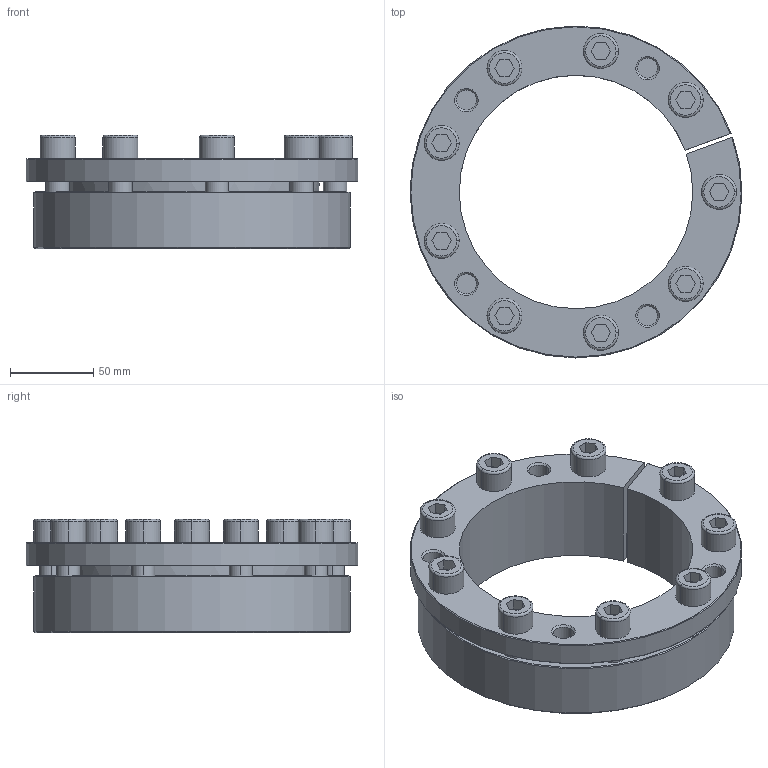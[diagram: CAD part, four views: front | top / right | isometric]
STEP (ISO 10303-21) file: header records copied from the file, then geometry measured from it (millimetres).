
FILE_DESCRIPTION((''),'2;1');
FILE_NAME('398-011-0140','2024-02-18T',('Brieden'),('Brieden'),'PRO/ENGINEER BY PARAMETRIC TECHNOLOGY CORPORATION, 2010160','PRO/ENGINEER BY PARAMETRIC TECHNOLOGY CORPORATION, 2010160','');
FILE_SCHEMA(('AUTOMOTIVE_DESIGN { 1 0 10303 214 1 1 1 1 }'));
Length unit declared in the file: millimetre
Products named in the file (1): 398-011-0140
Bounding box: 198.99 x 199 x 68 mm (x, y, z)
Volume: 707602.6 mm3; surface area: 166485.2 mm2
Topology: 2 solids, 2 shells, 240 faces, 548 edges, 348 vertices
Faces by surface type: plane 99, cylinder 83, cone 40, torus 18
Entity records: 8756 total; most frequent: DIRECTION 1262, CARTESIAN_POINT 1196, ORIENTED_EDGE 1096, PRESENTATION_STYLE_ASSIGNMENT 567, STYLED_ITEM 550, CURVE_STYLE 548, EDGE_CURVE 548, AXIS2_PLACEMENT_3D 485
